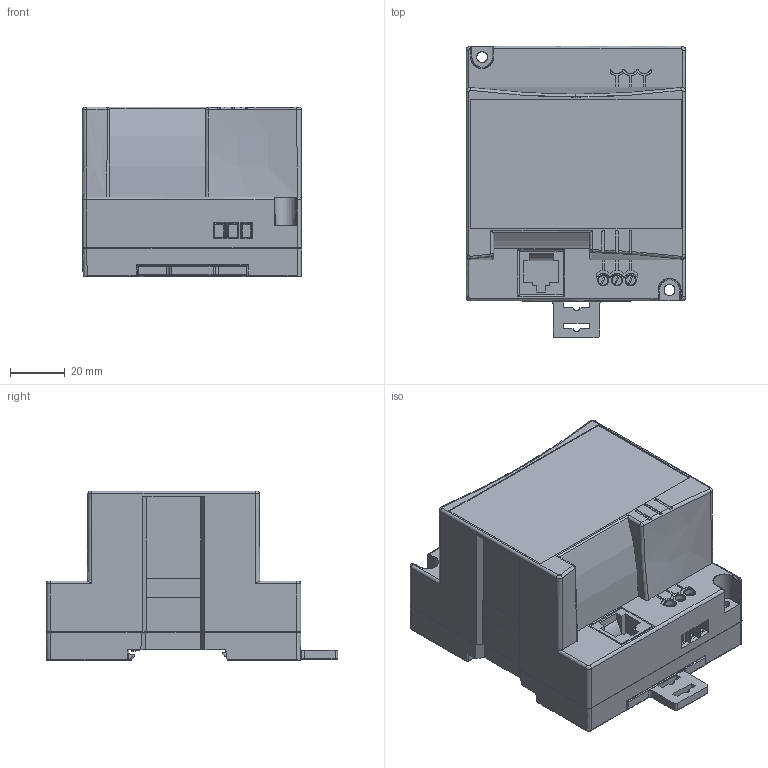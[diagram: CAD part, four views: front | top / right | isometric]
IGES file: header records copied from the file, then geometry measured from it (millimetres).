
Start section: SolidWorks IGES file using analytic representation for surfaces
Global section: file name: Z:\Products\Expansion\CAD File\3D Files\EX-Adapter.IGS; native system: SolidWorks 2011; preprocessor: SolidWorks 2011; author: baraki; date: 120624.115421; units: millimetre
Bounding box: 80.14 x 106.47 x 61.92 mm (x, y, z)
Surface area: 59168.1 mm2 (no closed solid volume)
Topology: 0 solids, 0 shells, 1186 faces, 9423 edges, 9405 vertices
Faces by surface type: bspline 886, revolution 300
